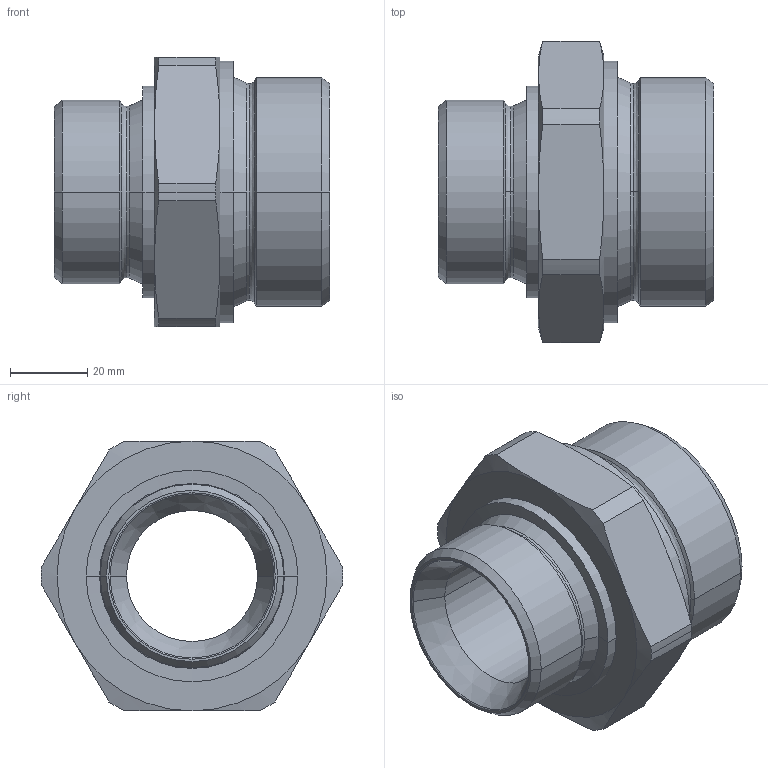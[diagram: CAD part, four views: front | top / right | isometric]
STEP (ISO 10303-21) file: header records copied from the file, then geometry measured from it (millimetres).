
FILE_DESCRIPTION((''),'2;1');
FILE_NAME('300530.stp','2006-09-11T08:15:08',(''),(''),'AutoCAD STEP 2000i','AutoCAD 2000i',', , ');
FILE_SCHEMA(('CONFIG_CONTROL_DESIGN'));
Length unit declared in the file: millimetre
Products named in the file (2): 300530.0; CHIAVE SMUSSATA#0
Assembly tree (1 placements, depth 2):
  300530.0
    CHIAVE SMUSSATA#0
Bounding box: 71.5 x 78.3 x 70 mm (x, y, z)
Volume: 100888.5 mm3; surface area: 27879.8 mm2
Topology: 1 solids, 1 shells, 76 faces, 178 edges, 106 vertices
Faces by surface type: cone 34, cylinder 20, plane 10, bspline 8, torus 4
Entity records: 2593 total; most frequent: CARTESIAN_POINT 762, DIRECTION 400, ORIENTED_EDGE 356, EDGE_CURVE 178, AXIS2_PLACEMENT_3D 176, VERTEX_POINT 106, CIRCLE 106, EDGE_LOOP 80
